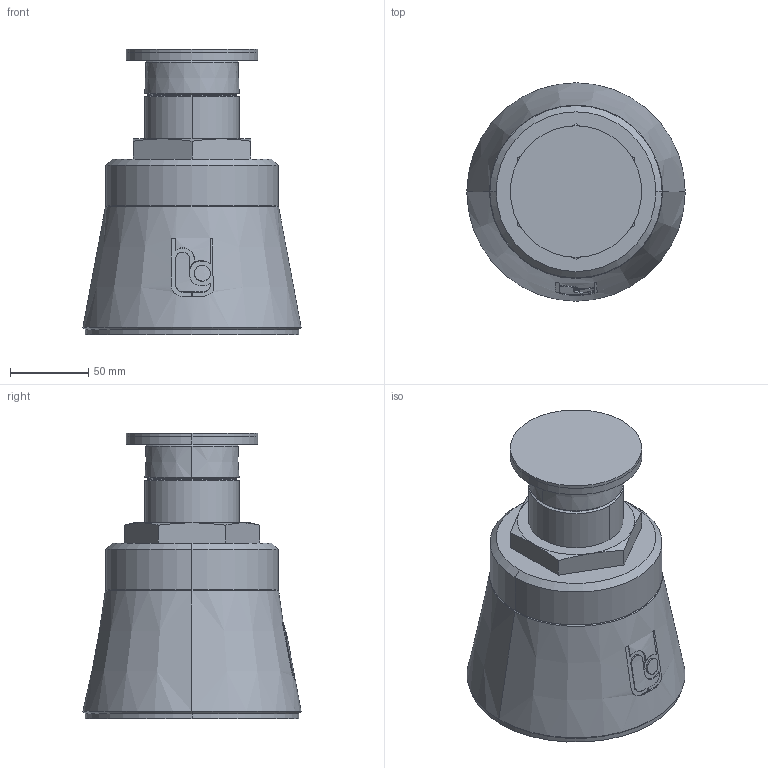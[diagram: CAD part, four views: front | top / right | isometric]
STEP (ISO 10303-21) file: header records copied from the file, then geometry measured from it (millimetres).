
FILE_DESCRIPTION(('STEP AP214'),'1');
FILE_NAME('RSRFS2-09-V1.stp','2018-07-02T06:38:42',(' '),(' '),'Spatial InterOp 3D',' ',' ');
FILE_SCHEMA(('automotive_design'));
Length unit declared in the file: millimetre
Products named in the file (6): 1; 2; 3; 4; 5; 6
Bounding box: 139.44 x 139.44 x 182 mm (x, y, z)
Volume: 1778335.7 mm3; surface area: 176686.1 mm2
Topology: 6 solids, 6 shells, 121 faces, 295 edges, 190 vertices
Faces by surface type: plane 50, cylinder 40, cone 27, torus 4
Entity records: 5194 total; most frequent: CARTESIAN_POINT 1247, DIRECTION 615, ORIENTED_EDGE 590, EDGE_CURVE 295, AXIS2_PLACEMENT_3D 242, VERTEX_POINT 190, LINE 131, VECTOR 131
